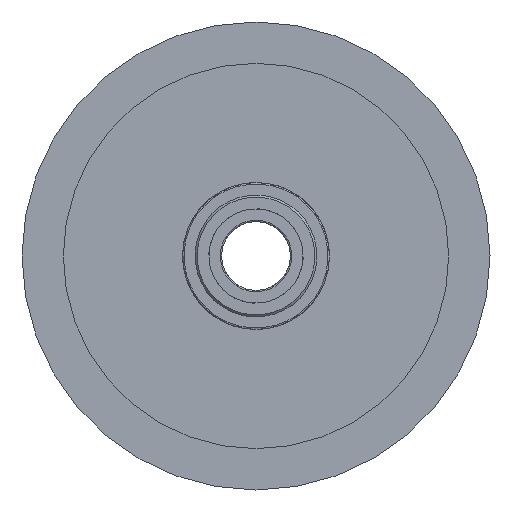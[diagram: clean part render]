
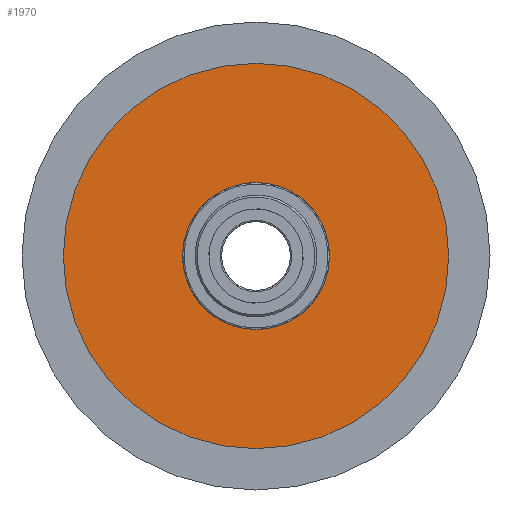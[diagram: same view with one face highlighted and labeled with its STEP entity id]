
A CAD part, left-side view. The second image highlights one B-rep face of the part: STEP entity #1970.
In plain terms, the highlighted planar face has unit normal (-1, 0, 0).
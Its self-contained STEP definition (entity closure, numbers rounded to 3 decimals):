
#872 = CIRCLE ( 'NONE', #24920, 42. ) ;
#1445 = EDGE_LOOP ( 'NONE', ( #13343, #23384 ) ) ;
#1853 = FACE_OUTER_BOUND ( 'NONE', #1445, .T. ) ;
#1970 = ADVANCED_FACE ( 'NONE', ( #22065, #1853 ), #9205, .T. ) ;
#2575 = EDGE_CURVE ( 'NONE', #24266, #8535, #9354, .T. ) ;
#4047 = DIRECTION ( 'NONE',  ( 0., 0., -1. ) ) ;
#4488 = CARTESIAN_POINT ( 'NONE',  ( 635.762, 870.526, 1252.199 ) ) ;
#6067 = DIRECTION ( 'NONE',  ( 0., 0., -1. ) ) ;
#6354 = CARTESIAN_POINT ( 'NONE',  ( 635.762, 870.526, 1252.199 ) ) ;
#8364 = AXIS2_PLACEMENT_3D ( 'NONE', #12299, #10210, #26179 ) ;
#8535 = VERTEX_POINT ( 'NONE', #25621 ) ;
#9205 = PLANE ( 'NONE',  #19708 ) ;
#9354 = CIRCLE ( 'NONE', #27288, 16. ) ;
#10210 = DIRECTION ( 'NONE',  ( -1., 0., 0. ) ) ;
#10444 = ORIENTED_EDGE ( 'NONE', *, *, #2575, .F. ) ;
#11692 = CARTESIAN_POINT ( 'NONE',  ( 635.762, 870.526, 1236.199 ) ) ;
#12299 = CARTESIAN_POINT ( 'NONE',  ( 635.762, 870.526, 1252.199 ) ) ;
#12713 = DIRECTION ( 'NONE',  ( 1., 0., 0. ) ) ;
#13343 = ORIENTED_EDGE ( 'NONE', *, *, #20231, .F. ) ;
#13512 = DIRECTION ( 'NONE',  ( 1., 0., 0. ) ) ;
#13863 = CARTESIAN_POINT ( 'NONE',  ( 635.762, 870.526, 1252.199 ) ) ;
#14290 = DIRECTION ( 'NONE',  ( -1., 0., 0. ) ) ;
#14902 = AXIS2_PLACEMENT_3D ( 'NONE', #6354, #12713, #6067 ) ;
#15238 = VERTEX_POINT ( 'NONE', #23107 ) ;
#16090 = ORIENTED_EDGE ( 'NONE', *, *, #16488, .F. ) ;
#16168 = DIRECTION ( 'NONE',  ( -1., 0., 0. ) ) ;
#16488 = EDGE_CURVE ( 'NONE', #8535, #24266, #22510, .T. ) ;
#16787 = EDGE_LOOP ( 'NONE', ( #10444, #16090 ) ) ;
#17054 = EDGE_CURVE ( 'NONE', #15238, #26787, #872, .T. ) ;
#19708 = AXIS2_PLACEMENT_3D ( 'NONE', #27521, #16168, #27379 ) ;
#20231 = EDGE_CURVE ( 'NONE', #26787, #15238, #21482, .T. ) ;
#21482 = CIRCLE ( 'NONE', #14902, 42. ) ;
#22065 = FACE_BOUND ( 'NONE', #16787, .T. ) ;
#22510 = CIRCLE ( 'NONE', #8364, 16. ) ;
#23107 = CARTESIAN_POINT ( 'NONE',  ( 635.762, 870.526, 1294.199 ) ) ;
#23278 = DIRECTION ( 'NONE',  ( 0., 0., 1. ) ) ;
#23384 = ORIENTED_EDGE ( 'NONE', *, *, #17054, .F. ) ;
#24266 = VERTEX_POINT ( 'NONE', #11692 ) ;
#24920 = AXIS2_PLACEMENT_3D ( 'NONE', #4488, #13512, #4047 ) ;
#25621 = CARTESIAN_POINT ( 'NONE',  ( 635.762, 870.526, 1268.199 ) ) ;
#26179 = DIRECTION ( 'NONE',  ( 0., 0., 1. ) ) ;
#26787 = VERTEX_POINT ( 'NONE', #28119 ) ;
#27288 = AXIS2_PLACEMENT_3D ( 'NONE', #13863, #14290, #23278 ) ;
#27379 = DIRECTION ( 'NONE',  ( 0., 0., -1. ) ) ;
#27521 = CARTESIAN_POINT ( 'NONE',  ( 635.762, 870.526, 1252.199 ) ) ;
#28119 = CARTESIAN_POINT ( 'NONE',  ( 635.762, 870.526, 1210.199 ) ) ;
